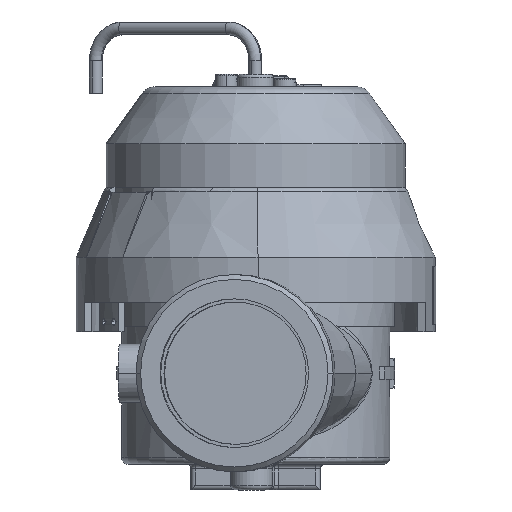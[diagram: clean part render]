
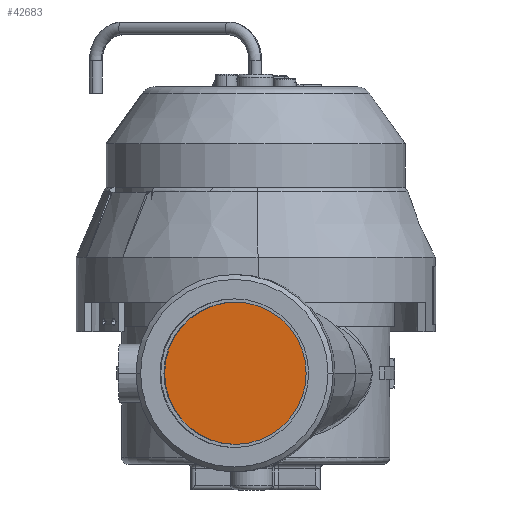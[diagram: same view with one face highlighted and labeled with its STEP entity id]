
A CAD part, front view. The second image highlights one B-rep face of the part: STEP entity #42683.
In plain terms, the highlighted planar face has unit normal (-0.047, -0.999, 0).
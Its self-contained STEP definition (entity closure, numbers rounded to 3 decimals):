
#248 = DIRECTION ( 'NONE',  ( -0.999, 0.047, 0. ) ) ;
#1749 = AXIS2_PLACEMENT_3D ( 'NONE', #26692, #34804, #41928 ) ;
#8416 = CARTESIAN_POINT ( 'NONE',  ( 137.268, 63.901, 82.206 ) ) ;
#9257 = AXIS2_PLACEMENT_3D ( 'NONE', #39796, #20011, #248 ) ;
#10460 = PLANE ( 'NONE',  #41697 ) ;
#11896 = ORIENTED_EDGE ( 'NONE', *, *, #51284, .F. ) ;
#13880 = VERTEX_POINT ( 'NONE', #8416 ) ;
#17010 = ORIENTED_EDGE ( 'NONE', *, *, #42928, .F. ) ;
#19012 = DIRECTION ( 'NONE',  ( -0.999, 0.047, 0. ) ) ;
#20011 = DIRECTION ( 'NONE',  ( 0.047, 0.999, 0. ) ) ;
#24142 = CIRCLE ( 'NONE', #1749, 22. ) ;
#26692 = CARTESIAN_POINT ( 'NONE',  ( 159.243, 62.863, 82.206 ) ) ;
#27950 = EDGE_LOOP ( 'NONE', ( #17010, #11896 ) ) ;
#30693 = DIRECTION ( 'NONE',  ( 0.047, 0.999, 0. ) ) ;
#30966 = CARTESIAN_POINT ( 'NONE',  ( 137.268, 63.901, 82.206 ) ) ;
#34804 = DIRECTION ( 'NONE',  ( 0.047, 0.999, 0. ) ) ;
#37246 = CARTESIAN_POINT ( 'NONE',  ( 181.219, 61.826, 82.206 ) ) ;
#38631 = VERTEX_POINT ( 'NONE', #37246 ) ;
#39796 = CARTESIAN_POINT ( 'NONE',  ( 159.243, 62.863, 82.206 ) ) ;
#41697 = AXIS2_PLACEMENT_3D ( 'NONE', #30966, #30693, #19012 ) ;
#41928 = DIRECTION ( 'NONE',  ( -0.999, 0.047, 0. ) ) ;
#42683 = ADVANCED_FACE ( 'NONE', ( #46417 ), #10460, .F. ) ;
#42928 = EDGE_CURVE ( 'NONE', #13880, #38631, #24142, .T. ) ;
#45066 = CIRCLE ( 'NONE', #9257, 22. ) ;
#46417 = FACE_OUTER_BOUND ( 'NONE', #27950, .T. ) ;
#51284 = EDGE_CURVE ( 'NONE', #38631, #13880, #45066, .T. ) ;
